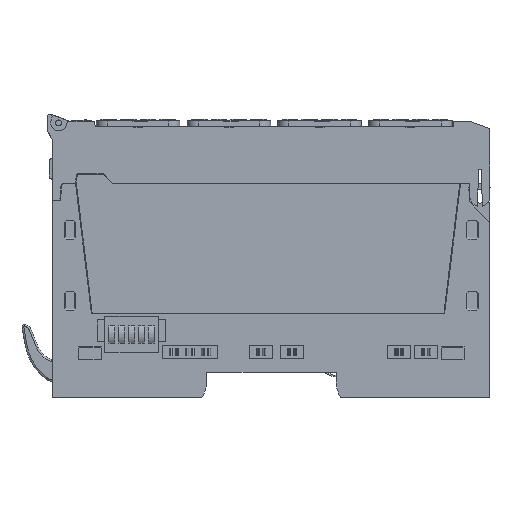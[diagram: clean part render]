
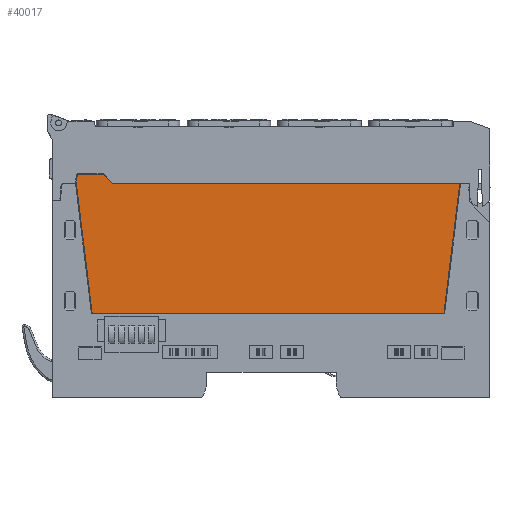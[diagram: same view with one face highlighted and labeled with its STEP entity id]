
A CAD part, top view. The second image highlights one B-rep face of the part: STEP entity #40017.
In plain terms, the highlighted planar face has unit normal (0, 0, 1).
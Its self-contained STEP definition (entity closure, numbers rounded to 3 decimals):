
#39957=AXIS2_PLACEMENT_3D('Plane Axis2P3D',#39954,#39955,#39956) ;
#39989=AXIS2_PLACEMENT_3D('Circle Axis2P3D',#39987,#39988,$) ;
#36655=CARTESIAN_POINT('Vertex',(47.15,16.1,11.5)) ;
#36658=CARTESIAN_POINT('Line Origine',(-0.9,16.1,11.5)) ;
#36662=CARTESIAN_POINT('Vertex',(-48.95,16.1,11.5)) ;
#39938=CARTESIAN_POINT('Vertex',(51.497,51.5,11.5)) ;
#39941=CARTESIAN_POINT('Line Origine',(49.323,33.8,11.5)) ;
#39954=CARTESIAN_POINT('Axis2P3D Location',(0.,0.,11.5)) ;
#39959=CARTESIAN_POINT('Line Origine',(-51.123,33.8,11.5)) ;
#39963=CARTESIAN_POINT('Vertex',(-53.297,51.5,11.5)) ;
#39966=CARTESIAN_POINT('Line Origine',(4.05,51.5,11.5)) ;
#39970=CARTESIAN_POINT('Vertex',(-43.396,51.5,11.5)) ;
#39973=CARTESIAN_POINT('Line Origine',(-44.684,52.8,11.5)) ;
#39977=CARTESIAN_POINT('Vertex',(-45.971,54.1,11.5)) ;
#39980=CARTESIAN_POINT('Line Origine',(-49.265,54.1,11.5)) ;
#39984=CARTESIAN_POINT('Vertex',(-52.558,54.1,11.5)) ;
#39987=CARTESIAN_POINT('Axis2P3D Location',(-52.558,53.6,11.5)) ;
#39991=CARTESIAN_POINT('Vertex',(-53.051,53.686,11.5)) ;
#39994=CARTESIAN_POINT('Line Origine',(-53.174,52.982,11.5)) ;
#39998=CARTESIAN_POINT('Vertex',(-53.297,52.277,11.5)) ;
#40001=CARTESIAN_POINT('Line Origine',(-53.297,51.889,11.5)) ;
#36659=DIRECTION('Vector Direction',(-1.,0.,0.)) ;
#39942=DIRECTION('Vector Direction',(0.122,0.993,0.)) ;
#39955=DIRECTION('Axis2P3D Direction',(0.,0.,1.)) ;
#39956=DIRECTION('Axis2P3D XDirection',(1.,0.,0.)) ;
#39960=DIRECTION('Vector Direction',(0.122,-0.993,0.)) ;
#39967=DIRECTION('Vector Direction',(1.,0.,0.)) ;
#39974=DIRECTION('Vector Direction',(-0.704,0.71,0.)) ;
#39981=DIRECTION('Vector Direction',(-1.,0.,0.)) ;
#39988=DIRECTION('Axis2P3D Direction',(0.,0.,1.)) ;
#39995=DIRECTION('Vector Direction',(-0.172,-0.985,0.)) ;
#40002=DIRECTION('Vector Direction',(0.,-1.,0.)) ;
#36660=VECTOR('Line Direction',#36659,1.) ;
#39943=VECTOR('Line Direction',#39942,1.) ;
#39961=VECTOR('Line Direction',#39960,1.) ;
#39968=VECTOR('Line Direction',#39967,1.) ;
#39975=VECTOR('Line Direction',#39974,1.) ;
#39982=VECTOR('Line Direction',#39981,1.) ;
#39996=VECTOR('Line Direction',#39995,1.) ;
#40003=VECTOR('Line Direction',#40002,1.) ;
#40007=ORIENTED_EDGE('',*,*,#39965,.T.) ;
#40008=ORIENTED_EDGE('',*,*,#36664,.T.) ;
#40009=ORIENTED_EDGE('',*,*,#39945,.T.) ;
#40010=ORIENTED_EDGE('',*,*,#39972,.T.) ;
#40011=ORIENTED_EDGE('',*,*,#39979,.T.) ;
#40012=ORIENTED_EDGE('',*,*,#39986,.T.) ;
#40013=ORIENTED_EDGE('',*,*,#39993,.T.) ;
#40014=ORIENTED_EDGE('',*,*,#40000,.T.) ;
#40015=ORIENTED_EDGE('',*,*,#40005,.T.) ;
#40017=ADVANCED_FACE('ELGH_BASIC',(#40016),#39958,.T.) ;
#39990=CIRCLE('generated circle',#39989,0.5) ;
#36664=EDGE_CURVE('',#36663,#36656,#36661,.F.) ;
#39945=EDGE_CURVE('',#36656,#39939,#39944,.T.) ;
#39965=EDGE_CURVE('',#39964,#36663,#39962,.T.) ;
#39972=EDGE_CURVE('',#39939,#39971,#39969,.F.) ;
#39979=EDGE_CURVE('',#39971,#39978,#39976,.T.) ;
#39986=EDGE_CURVE('',#39978,#39985,#39983,.T.) ;
#39993=EDGE_CURVE('',#39985,#39992,#39990,.T.) ;
#40000=EDGE_CURVE('',#39992,#39999,#39997,.T.) ;
#40005=EDGE_CURVE('',#39999,#39964,#40004,.T.) ;
#40006=EDGE_LOOP('',(#40007,#40008,#40009,#40010,#40011,#40012,#40013,#40014,#40015)) ;
#40016=FACE_OUTER_BOUND('',#40006,.T.) ;
#36661=LINE('Line',#36658,#36660) ;
#39944=LINE('Line',#39941,#39943) ;
#39962=LINE('Line',#39959,#39961) ;
#39969=LINE('Line',#39966,#39968) ;
#39976=LINE('Line',#39973,#39975) ;
#39983=LINE('Line',#39980,#39982) ;
#39997=LINE('Line',#39994,#39996) ;
#40004=LINE('Line',#40001,#40003) ;
#39958=PLANE('',#39957) ;
#36656=VERTEX_POINT('',#36655) ;
#36663=VERTEX_POINT('',#36662) ;
#39939=VERTEX_POINT('',#39938) ;
#39964=VERTEX_POINT('',#39963) ;
#39971=VERTEX_POINT('',#39970) ;
#39978=VERTEX_POINT('',#39977) ;
#39985=VERTEX_POINT('',#39984) ;
#39992=VERTEX_POINT('',#39991) ;
#39999=VERTEX_POINT('',#39998) ;
